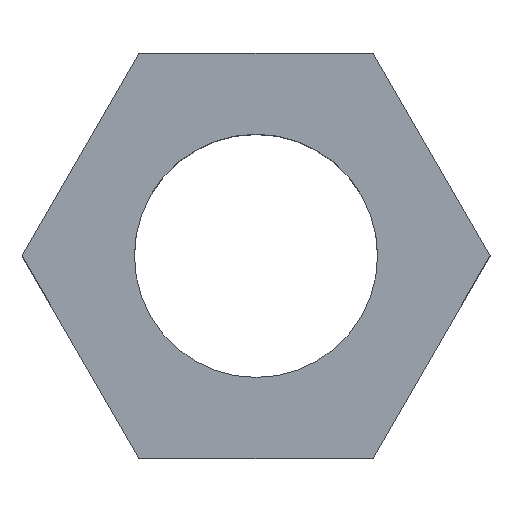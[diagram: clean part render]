
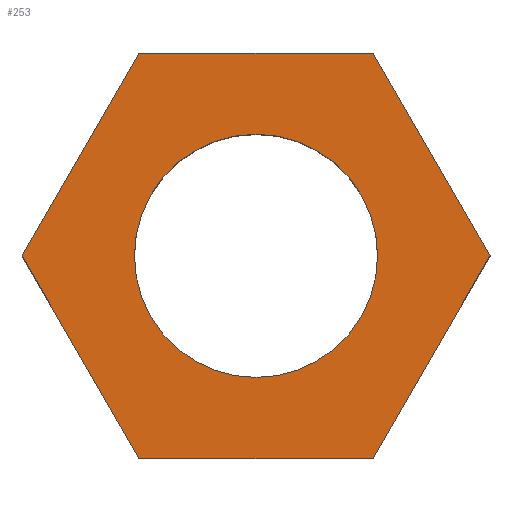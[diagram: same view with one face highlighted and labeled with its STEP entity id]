
A CAD part, top view. The second image highlights one B-rep face of the part: STEP entity #253.
In plain terms, the highlighted planar face has unit normal (0, 0, 1).
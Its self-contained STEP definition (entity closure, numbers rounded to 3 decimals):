
#24 = VERTEX_POINT('',#25);
#25 = CARTESIAN_POINT('',(4.041,0.,3.2));
#31 = EDGE_CURVE('',#24,#32,#34,.T.);
#32 = VERTEX_POINT('',#33);
#33 = CARTESIAN_POINT('',(2.021,3.5,3.2));
#34 = LINE('',#35,#36);
#35 = CARTESIAN_POINT('',(4.041,0.,3.2));
#36 = VECTOR('',#37,1.);
#37 = DIRECTION('',(-0.5,0.866,0.));
#62 = EDGE_CURVE('',#32,#63,#65,.T.);
#63 = VERTEX_POINT('',#64);
#64 = CARTESIAN_POINT('',(-2.021,3.5,3.2));
#65 = LINE('',#66,#67);
#66 = CARTESIAN_POINT('',(2.021,3.5,3.2));
#67 = VECTOR('',#68,1.);
#68 = DIRECTION('',(-1.,0.,0.));
#93 = EDGE_CURVE('',#63,#94,#96,.T.);
#94 = VERTEX_POINT('',#95);
#95 = CARTESIAN_POINT('',(-4.041,0.,3.2));
#96 = LINE('',#97,#98);
#97 = CARTESIAN_POINT('',(-2.021,3.5,3.2));
#98 = VECTOR('',#99,1.);
#99 = DIRECTION('',(-0.5,-0.866,0.));
#124 = EDGE_CURVE('',#94,#125,#127,.T.);
#125 = VERTEX_POINT('',#126);
#126 = CARTESIAN_POINT('',(-2.021,-3.5,3.2));
#127 = LINE('',#128,#129);
#128 = CARTESIAN_POINT('',(-4.041,0.,3.2));
#129 = VECTOR('',#130,1.);
#130 = DIRECTION('',(0.5,-0.866,0.));
#155 = EDGE_CURVE('',#125,#156,#158,.T.);
#156 = VERTEX_POINT('',#157);
#157 = CARTESIAN_POINT('',(2.021,-3.5,3.2));
#158 = LINE('',#159,#160);
#159 = CARTESIAN_POINT('',(-2.021,-3.5,3.2));
#160 = VECTOR('',#161,1.);
#161 = DIRECTION('',(1.,0.,0.));
#186 = EDGE_CURVE('',#156,#24,#187,.T.);
#187 = LINE('',#188,#189);
#188 = CARTESIAN_POINT('',(2.021,-3.5,3.2));
#189 = VECTOR('',#190,1.);
#190 = DIRECTION('',(0.5,0.866,0.));
#210 = VERTEX_POINT('',#211);
#211 = CARTESIAN_POINT('',(2.1,0.,3.2));
#217 = EDGE_CURVE('',#210,#210,#218,.T.);
#218 = CIRCLE('',#219,2.1);
#219 = AXIS2_PLACEMENT_3D('',#220,#221,#222);
#220 = CARTESIAN_POINT('',(0.,0.,3.2));
#221 = DIRECTION('',(0.,0.,1.));
#222 = DIRECTION('',(1.,0.,0.));
#253 = ADVANCED_FACE('',(#254,#262),#265,.T.);
#254 = FACE_BOUND('',#255,.T.);
#255 = EDGE_LOOP('',(#256,#257,#258,#259,#260,#261));
#256 = ORIENTED_EDGE('',*,*,#31,.T.);
#257 = ORIENTED_EDGE('',*,*,#62,.T.);
#258 = ORIENTED_EDGE('',*,*,#93,.T.);
#259 = ORIENTED_EDGE('',*,*,#124,.T.);
#260 = ORIENTED_EDGE('',*,*,#155,.T.);
#261 = ORIENTED_EDGE('',*,*,#186,.T.);
#262 = FACE_BOUND('',#263,.F.);
#263 = EDGE_LOOP('',(#264));
#264 = ORIENTED_EDGE('',*,*,#217,.T.);
#265 = PLANE('',#266);
#266 = AXIS2_PLACEMENT_3D('',#267,#268,#269);
#267 = CARTESIAN_POINT('',(0.,0.,3.2));
#268 = DIRECTION('',(0.,0.,1.));
#269 = DIRECTION('',(1.,0.,0.));
